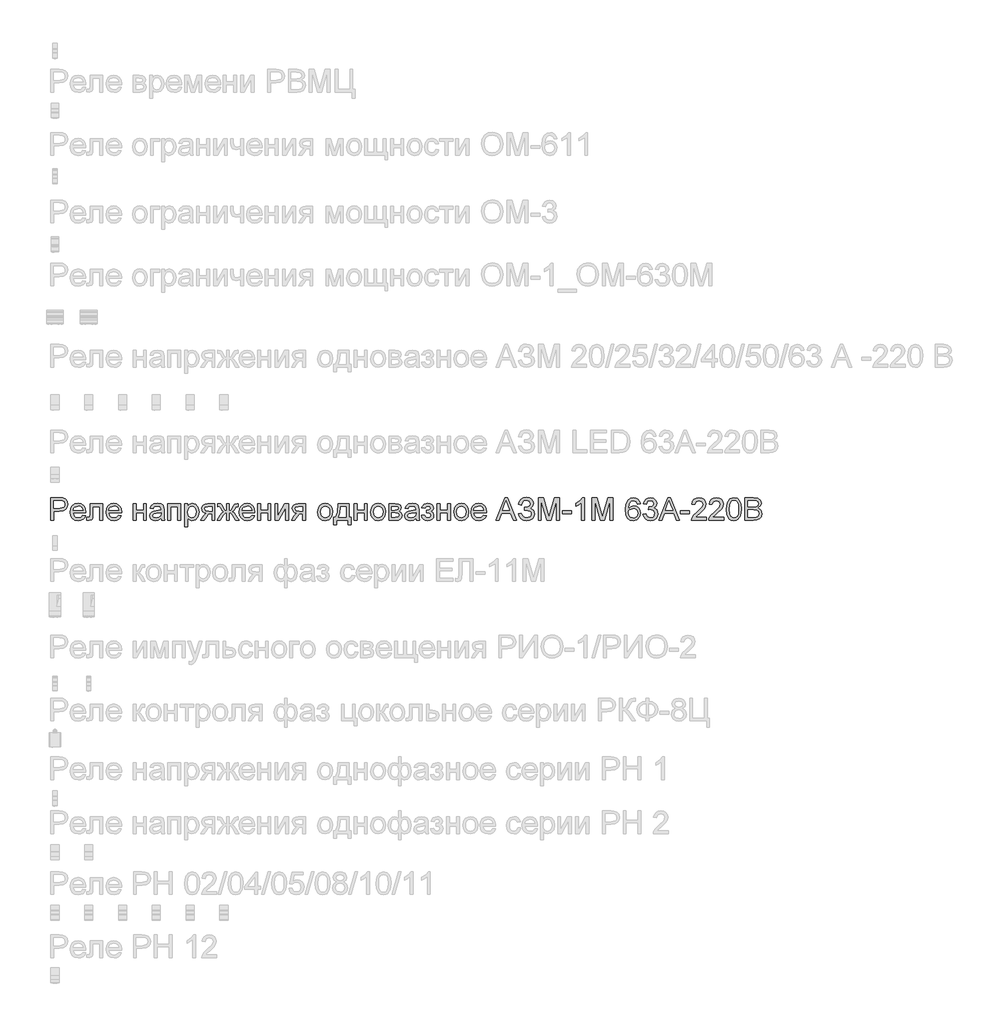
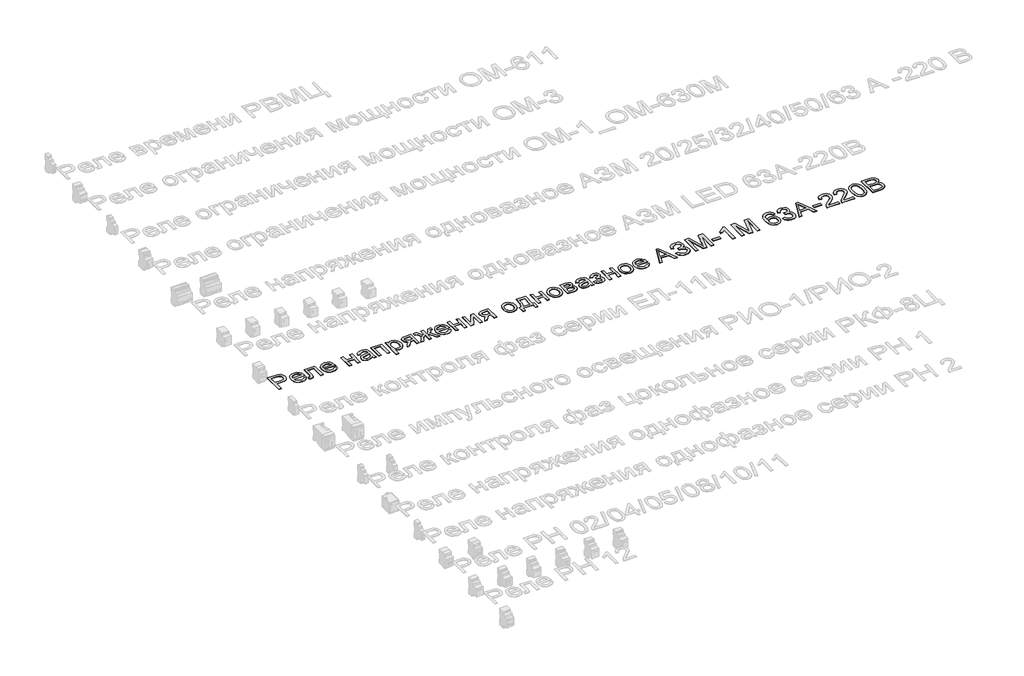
# One storey, part 13 of 34: 1 proxy.
"""IFC4 building model written with IfcOpenShell, lengths in millimetres."""

from ifc_helpers import new_model, si_unit, frame, origin, place, context, project, spatial, polyline, outline, extrude, element, save

model = new_model("IFC4")

# Units and contexts
model_context = context("Model", 3, world=origin())
ifc_project = project(units=[si_unit("LENGTHUNIT", "METRE", prefix="MILLI")], contexts=[model_context])

# Site, building, storey
site = spatial("IfcSite", under=ifc_project)
building = spatial("IfcBuilding", under=site)
storey = spatial("IfcBuildingStorey", under=building, Name="Этаж 01", Elevation=0.0)

# Proxy
placement = place(None, origin())
element("IfcBuildingElementProxy", 1, Name="Надпись на модели 1", ObjectType="Надпись на модели 1", at=placement, inside=storey, context=model_context, shape_type="SweptSolid", body=[
    extrude(outline(polyline([(-19039.0125911, 11596.235284), (-19039.0125911, 11696.6915941), (-19001.7829332, 11696.6915941), (-18986.7733478, 11695.735101), (-18974.5719283, 11691.0384742), (-18966.6624654, 11681.3263895), (-18963.6703585, 11667.6289165), (-18965.6906438, 11655.7892476), (-18971.7514996, 11645.9238788), (-18983.0853308, 11639.2652147), (-19000.9245418, 11637.04566), (-19026.4555523, 11637.04566), (-19026.4555523, 11596.235284), (-19039.0125911, 11596.235284)]), holes=[polyline([(-19026.4555523, 11649.6026988), (-19000.1887779, 11649.6026988), (-18981.6965762, 11654.2134864), (-18977.594692, 11659.7623732), (-18976.2273972, 11667.1874581), (-18979.4524961, 11677.5862559), (-18987.9260447, 11683.2761641), (-19000.4830834, 11684.1345554), (-19026.4555523, 11684.1345554), (-19026.4555523, 11649.6026988)])]), frame((0.0, 0.0, 40.0), z_axis=(0.0, 0.0, 1.0), x_axis=(1.0, 0.0, 0.0)), (0.0, 0.0, 1.0), 2.0),
    extrude(outline(polyline([(-18896.3234279, 11618.2101018), (-18884.0116438, 11616.640472), (-18888.4476875, 11607.3637143), (-18895.5263502, 11600.4291387), (-18905.0882164, 11596.1065253), (-18916.9738705, 11594.6656541), (-18931.7075445, 11597.1519233), (-18943.0444413, 11604.6107308), (-18950.2733225, 11616.5576985), (-18952.6829495, 11632.5084487), (-18950.248797, 11648.9956935), (-18942.9463394, 11661.3258717), (-18931.7627268, 11669.0146054), (-18917.6851091, 11671.5775166), (-18904.0458841, 11669.0207367), (-18893.14738, 11661.3503971), (-18886.0012722, 11649.0447444), (-18883.6192363, 11632.5820251), (-18883.6928127, 11629.1975108), (-18940.1259108, 11629.1975108), (-18937.9523413, 11619.7981258), (-18932.9031609, 11612.8880756), (-18925.6160317, 11608.6390386), (-18916.7286159, 11607.2226929), (-18904.4168318, 11609.8469178), (-18896.3234279, 11618.2101018)]), holes=[polyline([(-18940.1259108, 11641.7545495), (-18896.1762751, 11641.7545495), (-18901.2039957, 11653.1343659), (-18908.5248474, 11657.5489499), (-18917.73416, 11659.0204778), (-18933.1974665, 11654.323851), (-18938.0627059, 11648.8332123), (-18940.1259108, 11641.7545495)])]), frame((0.0, 0.0, 40.0), z_axis=(0.0, 0.0, 1.0), x_axis=(1.0, 0.0, 0.0)), (0.0, 0.0, 1.0), 2.0),
    extrude(outline(polyline([(-18864.7836782, 11670.0078868), (-18808.2770037, 11670.0078868), (-18808.2770037, 11596.3088604), (-18820.8340425, 11596.3088604), (-18820.8340425, 11657.450848), (-18852.2266394, 11657.450848), (-18852.2266394, 11622.2568038), (-18853.072768, 11606.0209451), (-18857.7203439, 11599.1660772), (-18868.7077528, 11596.235284), (-18878.9103468, 11596.8729461), (-18878.9103468, 11608.7923228), (-18873.294015, 11608.7923228), (-18867.6163695, 11609.564875), (-18865.3477639, 11612.0174216), (-18864.7836782, 11622.9680423), (-18864.7836782, 11670.0078868)])), frame((0.0, 0.0, 40.0), z_axis=(0.0, 0.0, 1.0), x_axis=(1.0, 0.0, 0.0)), (0.0, 0.0, 1.0), 2.0),
    extrude(outline(polyline([(-18737.7908134, 11618.2101018), (-18725.4790293, 11616.640472), (-18729.915073, 11607.3637143), (-18736.9937358, 11600.4291387), (-18746.555602, 11596.1065253), (-18758.4412561, 11594.6656541), (-18773.17493, 11597.1519233), (-18784.5118268, 11604.6107308), (-18791.740708, 11616.5576985), (-18794.1503351, 11632.5084487), (-18791.7161826, 11648.9956935), (-18784.4137249, 11661.3258717), (-18773.2301123, 11669.0146054), (-18759.1524946, 11671.5775166), (-18745.5132696, 11669.0207367), (-18734.6147655, 11661.3503971), (-18727.4686578, 11649.0447444), (-18725.0866219, 11632.5820251), (-18725.1601983, 11629.1975108), (-18781.5932963, 11629.1975108), (-18779.4197269, 11619.7981258), (-18774.3705465, 11612.8880756), (-18767.0834173, 11608.6390386), (-18758.1960014, 11607.2226929), (-18745.8842173, 11609.8469178), (-18737.7908134, 11618.2101018)]), holes=[polyline([(-18781.5932963, 11641.7545495), (-18737.6436606, 11641.7545495), (-18742.6713812, 11653.1343659), (-18749.9922329, 11657.5489499), (-18759.2015455, 11659.0204778), (-18774.6648521, 11654.323851), (-18779.5300915, 11648.8332123), (-18781.5932963, 11641.7545495)])]), frame((0.0, 0.0, 40.0), z_axis=(0.0, 0.0, 1.0), x_axis=(1.0, 0.0, 0.0)), (0.0, 0.0, 1.0), 2.0),
    extrude(outline(polyline([(-18673.2888369, 11670.0078868), (-18660.7317982, 11670.0078868), (-18660.7317982, 11641.7545495), (-18627.7695714, 11641.7545495), (-18627.7695714, 11670.0078868), (-18615.2125326, 11670.0078868), (-18615.2125326, 11596.235284), (-18627.7695714, 11596.235284), (-18627.7695714, 11629.1975108), (-18660.7317982, 11629.1975108), (-18660.7317982, 11596.235284), (-18673.2888369, 11596.235284), (-18673.2888369, 11670.0078868)])), frame((0.0, 0.0, 40.0), z_axis=(0.0, 0.0, 1.0), x_axis=(1.0, 0.0, 0.0)), (0.0, 0.0, 1.0), 2.0),
    extrude(outline(polyline([(-18549.2880791, 11605.6530631), (-18561.4649731, 11597.1427262), (-18574.9171914, 11594.6656541), (-18585.4110253, 11596.1555762), (-18593.1518757, 11600.6253425), (-18597.9251445, 11607.4127653), (-18599.5162342, 11615.8556571), (-18597.1127385, 11625.7884709), (-18590.7974309, 11632.998958), (-18582.0050512, 11637.1192364), (-18571.1402696, 11639.0076973), (-18549.3616555, 11643.3241794), (-18549.2880791, 11646.1200825), (-18552.7461699, 11655.3907088), (-18566.6275838, 11659.0204778), (-18579.3317754, 11656.6047194), (-18585.3895656, 11648.0330689), (-18597.9466043, 11649.6026988), (-18592.5142135, 11661.8654319), (-18581.5758555, 11669.0513936), (-18565.008903, 11671.5775166), (-18549.7908512, 11669.3456992), (-18541.1946752, 11663.7416301), (-18537.344177, 11655.2190306), (-18536.7310403, 11644.2316216), (-18536.7310403, 11628.6088996), (-18536.0933782, 11606.7934973), (-18533.5917806, 11596.235284), (-18546.1488194, 11596.235284), (-18549.2880791, 11605.6530631)]), holes=[polyline([(-18549.2880791, 11630.7671406), (-18569.5461143, 11626.9166424), (-18580.3495822, 11624.8810287), (-18585.2424128, 11621.5700907), (-18586.9591954, 11616.7385739), (-18583.2190618, 11609.9450197), (-18572.2439156, 11607.2226929), (-18559.539724, 11610.2270625), (-18551.3482183, 11617.4988633), (-18549.3616555, 11627.210948), (-18549.2880791, 11630.7671406)])]), frame((0.0, 0.0, 40.0), z_axis=(0.0, 0.0, 1.0), x_axis=(1.0, 0.0, 0.0)), (0.0, 0.0, 1.0), 2.0),
    extrude(outline(polyline([(-18519.465112, 11670.0078868), (-18462.9584376, 11670.0078868), (-18462.9584376, 11596.235284), (-18475.5154763, 11596.235284), (-18475.5154763, 11657.450848), (-18506.9080733, 11657.450848), (-18506.9080733, 11596.235284), (-18519.465112, 11596.235284), (-18519.465112, 11670.0078868)])), frame((0.0, 0.0, 40.0), z_axis=(0.0, 0.0, 1.0), x_axis=(1.0, 0.0, 0.0)), (0.0, 0.0, 1.0), 2.0),
    extrude(outline(polyline([(-18444.1228794, 11567.9819468), (-18444.1228794, 11670.0078868), (-18431.5658406, 11670.0078868), (-18431.5658406, 11657.6961027), (-18422.8838256, 11668.1071631), (-18411.1606526, 11671.5775166), (-18395.243625, 11666.7214743), (-18384.8448273, 11653.036264), (-18381.3376856, 11633.6856711), (-18385.2985484, 11613.3417968), (-18396.8009921, 11599.4849083), (-18412.6812316, 11594.6656541), (-18423.6073268, 11597.890753), (-18431.5658406, 11606.0454705), (-18431.5658406, 11567.9819468), (-18444.1228794, 11567.9819468)]), holes=[polyline([(-18431.5658406, 11632.5329742), (-18430.2077429, 11621.2757851), (-18426.1334498, 11613.4031104), (-18420.1216449, 11608.7677973), (-18412.9510117, 11607.2226929), (-18405.6638825, 11608.8229796), (-18399.4987934, 11613.6238396), (-18395.2957416, 11621.7846886), (-18393.8947243, 11633.4649419), (-18395.2620191, 11644.6608173), (-18399.3639033, 11652.6438566), (-18405.3665112, 11657.4263225), (-18412.4359769, 11659.0204778), (-18419.5330337, 11657.325155), (-18425.7655679, 11652.2391864), (-18430.1157724, 11643.9219876), (-18431.5658406, 11632.5329742)])]), frame((0.0, 0.0, 40.0), z_axis=(0.0, 0.0, 1.0), x_axis=(1.0, 0.0, 0.0)), (0.0, 0.0, 1.0), 2.0),
    extrude(outline(polyline([(-18310.7043425, 11670.0078868), (-18310.7043425, 11596.235284), (-18323.2613813, 11596.235284), (-18323.2613813, 11624.4886212), (-18330.1039864, 11624.4886212), (-18339.4236636, 11622.8944659), (-18348.1792551, 11612.1768371), (-18358.1856453, 11596.235284), (-18372.7047214, 11596.235284), (-18360.0986317, 11616.3952173), (-18349.4055284, 11626.843066), (-18357.9894416, 11629.4734223), (-18364.0227063, 11634.470486), (-18368.7806468, 11648.6952565), (-18367.1558347, 11657.2914325), (-18362.2813982, 11664.0972494), (-18354.3290158, 11668.5302274), (-18343.4703655, 11670.0078868), (-18310.7043425, 11670.0078868)]), holes=[polyline([(-18323.2613813, 11657.450848), (-18339.816071, 11657.450848), (-18353.2192384, 11654.5445802), (-18356.223608, 11647.7387633), (-18351.7967614, 11639.6330967), (-18336.1127256, 11637.04566), (-18323.2613813, 11637.04566), (-18323.2613813, 11657.450848)])]), frame((0.0, 0.0, 40.0), z_axis=(0.0, 0.0, 1.0), x_axis=(1.0, 0.0, 0.0)), (0.0, 0.0, 1.0), 2.0),
    extrude(outline(polyline([(-18246.3495188, 11670.0078868), (-18246.3495188, 11638.6152898), (-18239.0286671, 11641.2027265), (-18232.1002229, 11654.6304194), (-18223.8351407, 11667.5062892), (-18212.0874423, 11670.0078868), (-18207.1087727, 11670.0078868), (-18207.1087727, 11657.3772716), (-18210.5668634, 11657.450848), (-18217.0415865, 11656.1509983), (-18221.5297469, 11648.0085434), (-18226.7414085, 11639.0812737), (-18234.1848875, 11634.5440624), (-18225.9749876, 11629.6573633), (-18217.9735542, 11619.3627988), (-18203.969513, 11596.235284), (-18218.3659617, 11596.235284), (-18232.1492738, 11619.0439677), (-18239.1758199, 11628.5230604), (-18246.3495188, 11630.7671406), (-18246.3495188, 11596.235284), (-18258.9065576, 11596.235284), (-18258.9065576, 11630.7671406), (-18266.055731, 11628.5721114), (-18273.1313281, 11619.0930186), (-18286.9146401, 11596.235284), (-18301.2865634, 11596.235284), (-18287.3315731, 11619.3627988), (-18279.268826, 11629.6573633), (-18271.0221379, 11634.5440624), (-18278.9193381, 11639.5472576), (-18285.6883668, 11652.4231274), (-18288.9993048, 11656.6660331), (-18294.4194328, 11657.5244244), (-18298.1473037, 11657.450848), (-18298.1473037, 11670.0078868), (-18296.2588428, 11670.0078868), (-18285.2469084, 11669.2230718), (-18279.5324748, 11665.8876084), (-18273.1313281, 11654.6304194), (-18266.2764602, 11641.2885657), (-18258.9065576, 11638.6152898), (-18258.9065576, 11670.0078868), (-18246.3495188, 11670.0078868)])), frame((0.0, 0.0, 40.0), z_axis=(0.0, 0.0, 1.0), x_axis=(1.0, 0.0, 0.0)), (0.0, 0.0, 1.0), 2.0),
    extrude(outline(polyline([(-18146.0403615, 11618.2101018), (-18133.7285773, 11616.640472), (-18138.1646211, 11607.3637143), (-18145.2432838, 11600.4291387), (-18154.80515, 11596.1065253), (-18166.6908041, 11594.6656541), (-18181.424478, 11597.1519233), (-18192.7613748, 11604.6107308), (-18199.990256, 11616.5576985), (-18202.3998831, 11632.5084487), (-18199.9657306, 11648.9956935), (-18192.663273, 11661.3258717), (-18181.4796603, 11669.0146054), (-18167.4020426, 11671.5775166), (-18153.7628177, 11669.0207367), (-18142.8643136, 11661.3503971), (-18135.7182058, 11649.0447444), (-18133.3361699, 11632.5820251), (-18133.4097463, 11629.1975108), (-18189.8428443, 11629.1975108), (-18187.6692749, 11619.7981258), (-18182.6200945, 11612.8880756), (-18175.3329653, 11608.6390386), (-18166.4455495, 11607.2226929), (-18154.1337653, 11609.8469178), (-18146.0403615, 11618.2101018)]), holes=[polyline([(-18189.8428443, 11641.7545495), (-18145.8932087, 11641.7545495), (-18150.9209293, 11653.1343659), (-18158.241781, 11657.5489499), (-18167.4510936, 11659.0204778), (-18182.9144001, 11654.323851), (-18187.7796395, 11648.8332123), (-18189.8428443, 11641.7545495)])]), frame((0.0, 0.0, 40.0), z_axis=(0.0, 0.0, 1.0), x_axis=(1.0, 0.0, 0.0)), (0.0, 0.0, 1.0), 2.0),
    extrude(outline(polyline([(-18120.7791311, 11670.0078868), (-18108.2220923, 11670.0078868), (-18108.2220923, 11641.7545495), (-18075.2598656, 11641.7545495), (-18075.2598656, 11670.0078868), (-18062.7028268, 11670.0078868), (-18062.7028268, 11596.235284), (-18075.2598656, 11596.235284), (-18075.2598656, 11629.1975108), (-18108.2220923, 11629.1975108), (-18108.2220923, 11596.235284), (-18120.7791311, 11596.235284), (-18120.7791311, 11670.0078868)])), frame((0.0, 0.0, 40.0), z_axis=(0.0, 0.0, 1.0), x_axis=(1.0, 0.0, 0.0)), (0.0, 0.0, 1.0), 2.0),
    extrude(outline(polyline([(-18043.8672687, 11670.0078868), (-18031.3102299, 11670.0078868), (-18031.3102299, 11613.746467), (-18000.4571932, 11670.0078868), (-17984.2213345, 11670.0078868), (-17984.2213345, 11596.235284), (-17996.7783733, 11596.235284), (-17996.7783733, 11652.1533473), (-18027.4352062, 11596.235284), (-18043.8672687, 11596.235284), (-18043.8672687, 11670.0078868)])), frame((0.0, 0.0, 40.0), z_axis=(0.0, 0.0, 1.0), x_axis=(1.0, 0.0, 0.0)), (0.0, 0.0, 1.0), 2.0),
    extrude(outline(polyline([(-17908.8791019, 11670.0078868), (-17908.8791019, 11596.235284), (-17921.4361407, 11596.235284), (-17921.4361407, 11624.4886212), (-17928.2787458, 11624.4886212), (-17937.598423, 11622.8944659), (-17946.3540145, 11612.1768371), (-17956.3604047, 11596.235284), (-17970.8794808, 11596.235284), (-17958.2733911, 11616.3952173), (-17947.5802878, 11626.843066), (-17956.164201, 11629.4734223), (-17962.1974657, 11634.470486), (-17966.9554062, 11648.6952565), (-17965.3305941, 11657.2914325), (-17960.4561576, 11664.0972494), (-17952.5037752, 11668.5302274), (-17941.6451249, 11670.0078868), (-17908.8791019, 11670.0078868)]), holes=[polyline([(-17921.4361407, 11657.450848), (-17937.9908304, 11657.450848), (-17951.3939978, 11654.5445802), (-17954.3983674, 11647.7387633), (-17949.9715208, 11639.6330967), (-17934.287485, 11637.04566), (-17921.4361407, 11637.04566), (-17921.4361407, 11657.450848)])]), frame((0.0, 0.0, 40.0), z_axis=(0.0, 0.0, 1.0), x_axis=(1.0, 0.0, 0.0)), (0.0, 0.0, 1.0), 2.0),
    extrude(outline(polyline([(-17853.9420573, 11633.1215854), (-17851.2258619, 11650.9086798), (-17843.0772757, 11663.4105363), (-17833.0095718, 11669.5357715), (-17820.955305, 11671.5775166), (-17807.7636698, 11669.0912475), (-17797.2269164, 11661.63244), (-17790.3199319, 11649.7897054), (-17788.0176037, 11634.151655), (-17792.0888312, 11611.8089551), (-17803.9468941, 11599.1660772), (-17820.955305, 11594.6656541), (-17834.3063558, 11597.1427262), (-17844.8308465, 11604.5739426), (-17851.6642546, 11616.6649975), (-17853.9420573, 11633.1215854)]), holes=[polyline([(-17841.3850185, 11633.1461108), (-17839.9318846, 11621.7816229), (-17835.572483, 11613.6851533), (-17829.0119207, 11608.838308), (-17820.955305, 11607.2226929), (-17812.9354776, 11608.8475051), (-17806.387178, 11613.7219415), (-17802.0277764, 11621.92571), (-17800.5746425, 11633.5385183), (-17802.0369734, 11644.5719125), (-17806.4239662, 11652.5580175), (-17812.9814628, 11657.4048627), (-17820.955305, 11659.0204778), (-17829.0119207, 11657.4109941), (-17835.572483, 11652.5825429), (-17839.9318846, 11644.5044674), (-17841.3850185, 11633.1461108)])]), frame((0.0, 0.0, 40.0), z_axis=(0.0, 0.0, 1.0), x_axis=(1.0, 0.0, 0.0)), (0.0, 0.0, 1.0), 2.0),
    extrude(outline(polyline([(-17762.9035262, 11670.0078868), (-17715.8146308, 11670.0078868), (-17715.8146308, 11608.7923228), (-17706.3968517, 11608.7923228), (-17706.3968517, 11575.830096), (-17718.9538905, 11575.830096), (-17718.9538905, 11596.235284), (-17770.7516754, 11596.235284), (-17770.7516754, 11575.830096), (-17783.3087142, 11575.830096), (-17783.3087142, 11608.7923228), (-17775.460565, 11608.7923228), (-17765.760743, 11632.7414406), (-17762.9035262, 11670.0078868)]), holes=[polyline([(-17751.9161173, 11657.450848), (-17754.8591732, 11628.8418915), (-17761.3338964, 11608.7923228), (-17728.3716696, 11608.7923228), (-17728.3716696, 11657.450848), (-17751.9161173, 11657.450848)])]), frame((0.0, 0.0, 40.0), z_axis=(0.0, 0.0, 1.0), x_axis=(1.0, 0.0, 0.0)), (0.0, 0.0, 1.0), 2.0),
    extrude(outline(polyline([(-17692.2701831, 11670.0078868), (-17679.7131444, 11670.0078868), (-17679.7131444, 11641.7545495), (-17646.7509176, 11641.7545495), (-17646.7509176, 11670.0078868), (-17634.1938788, 11670.0078868), (-17634.1938788, 11596.235284), (-17646.7509176, 11596.235284), (-17646.7509176, 11629.1975108), (-17679.7131444, 11629.1975108), (-17679.7131444, 11596.235284), (-17692.2701831, 11596.235284), (-17692.2701831, 11670.0078868)])), frame((0.0, 0.0, 40.0), z_axis=(0.0, 0.0, 1.0), x_axis=(1.0, 0.0, 0.0)), (0.0, 0.0, 1.0), 2.0),
    extrude(outline(polyline([(-17618.4975804, 11633.1215854), (-17615.781385, 11650.9086798), (-17607.6327988, 11663.4105363), (-17597.5650948, 11669.5357715), (-17585.5108281, 11671.5775166), (-17572.3191929, 11669.0912475), (-17561.7824394, 11661.63244), (-17554.875455, 11649.7897054), (-17552.5731268, 11634.151655), (-17556.6443542, 11611.8089551), (-17568.5024172, 11599.1660772), (-17585.5108281, 11594.6656541), (-17598.8618789, 11597.1427262), (-17609.3863696, 11604.5739426), (-17616.2197777, 11616.6649975), (-17618.4975804, 11633.1215854)]), holes=[polyline([(-17605.9405416, 11633.1461108), (-17604.4874077, 11621.7816229), (-17600.1280061, 11613.6851533), (-17593.5674438, 11608.838308), (-17585.5108281, 11607.2226929), (-17577.4910006, 11608.8475051), (-17570.9427011, 11613.7219415), (-17566.5832995, 11621.92571), (-17565.1301656, 11633.5385183), (-17566.5924965, 11644.5719125), (-17570.9794893, 11652.5580175), (-17577.5369859, 11657.4048627), (-17585.5108281, 11659.0204778), (-17593.5674438, 11657.4109941), (-17600.1280061, 11652.5825429), (-17604.4874077, 11644.5044674), (-17605.9405416, 11633.1461108)])]), frame((0.0, 0.0, 40.0), z_axis=(0.0, 0.0, 1.0), x_axis=(1.0, 0.0, 0.0)), (0.0, 0.0, 1.0), 2.0),
    extrude(outline(polyline([(-17538.4464582, 11670.0078868), (-17510.7817322, 11670.0078868), (-17495.6127312, 11668.3278923), (-17487.077869, 11662.1720003), (-17483.5094136, 11651.4421087), (-17485.6676546, 11642.7233055), (-17492.1669032, 11636.5060997), (-17483.7301428, 11629.7002828), (-17480.3701539, 11617.8667453), (-17482.4977381, 11608.2956821), (-17487.5561156, 11601.5573102), (-17495.5636803, 11597.5657905), (-17506.5388265, 11596.235284), (-17538.4464582, 11596.235284), (-17538.4464582, 11670.0078868)]), holes=[polyline([(-17525.8894194, 11641.7545495), (-17513.4795335, 11641.7545495), (-17503.2401513, 11642.3922117), (-17498.2614816, 11644.9428602), (-17496.0664524, 11649.5536478), (-17499.9169506, 11655.7095399), (-17513.087126, 11657.450848), (-17525.8894194, 11657.450848), (-17525.8894194, 11641.7545495)]), polyline([(-17525.8894194, 11608.7923228), (-17510.4874266, 11608.7923228), (-17496.8267418, 11611.0609284), (-17492.9271927, 11618.8968149), (-17495.073171, 11624.9423424), (-17500.6649773, 11628.4617468), (-17511.7136999, 11629.1975108), (-17525.8894194, 11629.1975108), (-17525.8894194, 11608.7923228)])]), frame((0.0, 0.0, 40.0), z_axis=(0.0, 0.0, 1.0), x_axis=(1.0, 0.0, 0.0)), (0.0, 0.0, 1.0), 2.0),
    extrude(outline(polyline([(-17417.5849601, 11605.6530631), (-17429.7618541, 11597.1427262), (-17443.2140724, 11594.6656541), (-17453.7079063, 11596.1555762), (-17461.4487566, 11600.6253425), (-17466.2220255, 11607.4127653), (-17467.8131151, 11615.8556571), (-17465.4096194, 11625.7884709), (-17459.0943119, 11632.998958), (-17450.3019322, 11637.1192364), (-17439.4371506, 11639.0076973), (-17417.6585365, 11643.3241794), (-17417.5849601, 11646.1200825), (-17421.0430508, 11655.3907088), (-17434.9244648, 11659.0204778), (-17447.6286563, 11656.6047194), (-17453.6864465, 11648.0330689), (-17466.2434853, 11649.6026988), (-17460.8110945, 11661.8654319), (-17449.8727365, 11669.0513936), (-17433.305784, 11671.5775166), (-17418.0877321, 11669.3456992), (-17409.4915562, 11663.7416301), (-17405.641058, 11655.2190306), (-17405.0279213, 11644.2316216), (-17405.0279213, 11628.6088996), (-17404.3902592, 11606.7934973), (-17401.8886616, 11596.235284), (-17414.4457004, 11596.235284), (-17417.5849601, 11605.6530631)]), holes=[polyline([(-17417.5849601, 11630.7671406), (-17437.8429953, 11626.9166424), (-17448.6464632, 11624.8810287), (-17453.5392937, 11621.5700907), (-17455.2560764, 11616.7385739), (-17451.5159428, 11609.9450197), (-17440.5407966, 11607.2226929), (-17427.836605, 11610.2270625), (-17419.6450992, 11617.4988633), (-17417.6585365, 11627.210948), (-17417.5849601, 11630.7671406)])]), frame((0.0, 0.0, 40.0), z_axis=(0.0, 0.0, 1.0), x_axis=(1.0, 0.0, 0.0)), (0.0, 0.0, 1.0), 2.0),
    extrude(outline(polyline([(-17370.4960647, 11629.1975108), (-17370.4960647, 11641.7545495), (-17360.5877763, 11642.2450589), (-17355.5845811, 11644.857021), (-17353.2301364, 11650.3139373), (-17356.3816588, 11656.6537703), (-17364.5118509, 11659.0204778), (-17372.9118231, 11656.6660331), (-17378.3442139, 11649.6026988), (-17392.4708825, 11651.1723286), (-17383.028578, 11666.4762196), (-17365.7871751, 11671.5775166), (-17355.2902756, 11670.0232152), (-17347.3440245, 11665.3603109), (-17342.3408293, 11658.5391656), (-17340.6730976, 11650.510141), (-17343.0459365, 11642.7110427), (-17350.1644531, 11636.677778), (-17341.8625827, 11628.8541542), (-17339.1034678, 11617.5969652), (-17340.8539729, 11608.3539301), (-17346.1054884, 11601.0300127), (-17354.5023949, 11596.2567438), (-17365.6890733, 11594.6656541), (-17376.630497, 11596.1371821), (-17385.002878, 11600.5517661), (-17390.8062165, 11607.909406), (-17394.0405124, 11618.2101018), (-17379.9138438, 11619.7797317), (-17374.248461, 11610.5091054), (-17364.4873254, 11607.2226929), (-17355.314801, 11610.3742153), (-17351.6605065, 11618.430831), (-17353.9291122, 11625.0281815), (-17358.760629, 11628.5598486), (-17368.0435181, 11629.2710872), (-17370.4960647, 11629.1975108)])), frame((0.0, 0.0, 40.0), z_axis=(0.0, 0.0, 1.0), x_axis=(1.0, 0.0, 0.0)), (0.0, 0.0, 1.0), 2.0),
    extrude(outline(polyline([(-17323.4071693, 11670.0078868), (-17310.8501305, 11670.0078868), (-17310.8501305, 11641.7545495), (-17277.8879038, 11641.7545495), (-17277.8879038, 11670.0078868), (-17265.330865, 11670.0078868), (-17265.330865, 11596.235284), (-17277.8879038, 11596.235284), (-17277.8879038, 11629.1975108), (-17310.8501305, 11629.1975108), (-17310.8501305, 11596.235284), (-17323.4071693, 11596.235284), (-17323.4071693, 11670.0078868)])), frame((0.0, 0.0, 40.0), z_axis=(0.0, 0.0, 1.0), x_axis=(1.0, 0.0, 0.0)), (0.0, 0.0, 1.0), 2.0),
    extrude(outline(polyline([(-17249.6345665, 11633.1215854), (-17246.9183711, 11650.9086798), (-17238.7697849, 11663.4105363), (-17228.702081, 11669.5357715), (-17216.6478143, 11671.5775166), (-17203.4561791, 11669.0912475), (-17192.9194256, 11661.63244), (-17186.0124412, 11649.7897054), (-17183.710113, 11634.151655), (-17187.7813404, 11611.8089551), (-17199.6394034, 11599.1660772), (-17216.6478143, 11594.6656541), (-17229.998865, 11597.1427262), (-17240.5233558, 11604.5739426), (-17247.3567639, 11616.6649975), (-17249.6345665, 11633.1215854)]), holes=[polyline([(-17237.0775278, 11633.1461108), (-17235.6243939, 11621.7816229), (-17231.2649922, 11613.6851533), (-17224.70443, 11608.838308), (-17216.6478143, 11607.2226929), (-17208.6279868, 11608.8475051), (-17202.0796873, 11613.7219415), (-17197.7202857, 11621.92571), (-17196.2671518, 11633.5385183), (-17197.7294827, 11644.5719125), (-17202.1164755, 11652.5580175), (-17208.6739721, 11657.4048627), (-17216.6478143, 11659.0204778), (-17224.70443, 11657.4109941), (-17231.2649922, 11652.5825429), (-17235.6243939, 11644.5044674), (-17237.0775278, 11633.1461108)])]), frame((0.0, 0.0, 40.0), z_axis=(0.0, 0.0, 1.0), x_axis=(1.0, 0.0, 0.0)), (0.0, 0.0, 1.0), 2.0),
    extrude(outline(polyline([(-17117.9328123, 11618.2101018), (-17105.6210282, 11616.640472), (-17110.0570719, 11607.3637143), (-17117.1357346, 11600.4291387), (-17126.6976008, 11596.1065253), (-17138.5832549, 11594.6656541), (-17153.3169288, 11597.1519233), (-17164.6538257, 11604.6107308), (-17171.8827069, 11616.5576985), (-17174.2923339, 11632.5084487), (-17171.8581814, 11648.9956935), (-17164.5557238, 11661.3258717), (-17153.3721111, 11669.0146054), (-17139.2944935, 11671.5775166), (-17125.6552685, 11669.0207367), (-17114.7567644, 11661.3503971), (-17107.6106566, 11649.0447444), (-17105.2286207, 11632.5820251), (-17105.3021971, 11629.1975108), (-17161.7352952, 11629.1975108), (-17159.5617257, 11619.7981258), (-17154.5125453, 11612.8880756), (-17147.2254161, 11608.6390386), (-17138.3380003, 11607.2226929), (-17126.0262162, 11609.8469178), (-17117.9328123, 11618.2101018)]), holes=[polyline([(-17161.7352952, 11641.7545495), (-17117.7856595, 11641.7545495), (-17122.8133801, 11653.1343659), (-17130.1342318, 11657.5489499), (-17139.3435444, 11659.0204778), (-17154.8068509, 11654.323851), (-17159.6720903, 11648.8332123), (-17161.7352952, 11641.7545495)])]), frame((0.0, 0.0, 40.0), z_axis=(0.0, 0.0, 1.0), x_axis=(1.0, 0.0, 0.0)), (0.0, 0.0, 1.0), 2.0),
    extrude(outline(polyline([(-17063.5598534, 11596.235284), (-17023.4607159, 11696.6915941), (-17012.7676126, 11696.6915941), (-16972.6684751, 11596.235284), (-16985.9367524, 11596.235284), (-16997.4391961, 11627.6278809), (-17038.8136578, 11627.6278809), (-17050.2915761, 11596.235284), (-17063.5598534, 11596.235284)]), holes=[polyline([(-17034.2028702, 11640.1849197), (-17002.0254583, 11640.1849197), (-17011.0753554, 11664.8820643), (-17018.1141642, 11684.1345554), (-17024.3681582, 11667.0403053), (-17034.2028702, 11640.1849197)])]), frame((0.0, 0.0, 40.0), z_axis=(0.0, 0.0, 1.0), x_axis=(1.0, 0.0, 0.0)), (0.0, 0.0, 1.0), 2.0),
    extrude(outline(polyline([(-16963.9619345, 11624.4886212), (-16951.4048958, 11627.6278809), (-16943.6916366, 11614.0285098), (-16936.4045074, 11608.9241471), (-16927.0756332, 11607.2226929), (-16910.4105788, 11612.3362526), (-16905.839645, 11617.9801756), (-16904.3160004, 11624.684825), (-16905.9806664, 11631.7083054), (-16910.9746645, 11637.1314991), (-16929.1112469, 11641.7545495), (-16935.7085973, 11641.7545495), (-16935.7085973, 11654.3115883), (-16921.4960896, 11655.3293952), (-16912.8018118, 11660.528794), (-16909.0248899, 11670.0324122), (-16914.0526105, 11681.0320839), (-16927.6642444, 11685.7041852), (-16940.4788005, 11682.1112044), (-16947.811915, 11672.5830607), (-16949.8352659, 11663.7293674), (-16962.3923047, 11666.8686271), (-16958.4912227, 11680.6028882), (-16951.4232899, 11690.4130748), (-16941.1885062, 11696.2991867), (-16927.7868717, 11698.261224), (-16914.8588852, 11696.2225446), (-16904.9168743, 11690.1065064), (-16898.580107, 11681.2620101), (-16896.4678512, 11671.0379563), (-16899.7542637, 11658.6096763), (-16909.6135011, 11649.3329186), (-16896.8847841, 11640.6876917), (-16891.7589616, 11625.0527069), (-16894.2176396, 11613.1609215), (-16901.5936736, 11603.3844574), (-16913.0286723, 11596.845355), (-16927.6642444, 11594.6656541), (-16940.3990928, 11596.5295896), (-16950.6936573, 11602.1213959), (-16958.5479379, 11611.4410731), (-16963.9619345, 11624.4886212)])), frame((0.0, 0.0, 40.0), z_axis=(0.0, 0.0, 1.0), x_axis=(1.0, 0.0, 0.0)), (0.0, 0.0, 1.0), 2.0),
    extrude(outline(polyline([(-16874.4930333, 11596.235284), (-16874.4930333, 11696.6915941), (-16852.8860975, 11696.6915941), (-16832.3337567, 11625.8865728), (-16828.1889529, 11611.0977166), (-16823.7007925, 11627.1128461), (-16803.4918083, 11696.6915941), (-16781.8848724, 11696.6915941), (-16781.8848724, 11596.235284), (-16794.4419112, 11596.235284), (-16794.4419112, 11684.1345554), (-16819.678616, 11596.235284), (-16836.6992897, 11596.235284), (-16861.9359946, 11684.1345554), (-16861.9359946, 11596.235284), (-16874.4930333, 11596.235284)])), frame((0.0, 0.0, 40.0), z_axis=(0.0, 0.0, 1.0), x_axis=(1.0, 0.0, 0.0)), (0.0, 0.0, 1.0), 2.0),
    extrude(outline(polyline([(-16767.7582038, 11626.0582511), (-16767.7582038, 11638.6152898), (-16728.5174576, 11638.6152898), (-16728.5174576, 11626.0582511), (-16767.7582038, 11626.0582511)])), frame((0.0, 0.0, 40.0), z_axis=(0.0, 0.0, 1.0), x_axis=(1.0, 0.0, 0.0)), (0.0, 0.0, 1.0), 2.0),
    extrude(outline(polyline([(-16670.4411533, 11596.235284), (-16682.9981921, 11596.235284), (-16682.9981921, 11674.5205726), (-16694.8930433, 11666.0470239), (-16708.1122696, 11659.7071909), (-16708.1122696, 11671.5775166), (-16689.7059071, 11683.325215), (-16678.5345572, 11696.6915941), (-16670.4411533, 11696.6915941), (-16670.4411533, 11596.235284)])), frame((0.0, 0.0, 40.0), z_axis=(0.0, 0.0, 1.0), x_axis=(1.0, 0.0, 0.0)), (0.0, 0.0, 1.0), 2.0),
    extrude(outline(polyline([(-16635.9092967, 11596.235284), (-16635.9092967, 11696.6915941), (-16614.3023609, 11696.6915941), (-16593.7500201, 11625.8865728), (-16589.6052163, 11611.0977166), (-16585.1170559, 11627.1128461), (-16564.9080716, 11696.6915941), (-16543.3011358, 11696.6915941), (-16543.3011358, 11596.235284), (-16555.8581746, 11596.235284), (-16555.8581746, 11684.1345554), (-16581.0948794, 11596.235284), (-16598.1155531, 11596.235284), (-16623.3522579, 11684.1345554), (-16623.3522579, 11596.235284), (-16635.9092967, 11596.235284)])), frame((0.0, 0.0, 40.0), z_axis=(0.0, 0.0, 1.0), x_axis=(1.0, 0.0, 0.0)), (0.0, 0.0, 1.0), 2.0),
    extrude(outline(polyline([(-16422.4396376, 11670.0078868), (-16434.9966764, 11668.4382569), (-16439.7546169, 11678.910631), (-16452.3361811, 11684.1345554), (-16463.6669466, 11681.0933975), (-16472.2385971, 11669.676793), (-16475.8070524, 11647.2973049), (-16464.7338044, 11657.3159579), (-16451.0118059, 11660.5901077), (-16439.4112604, 11658.3521589), (-16429.6746502, 11651.6383125), (-16423.0711684, 11641.3805362), (-16420.8700078, 11628.5107977), (-16425.0148116, 11611.1835557), (-16436.4191535, 11598.9208226), (-16452.8757414, 11594.6656541), (-16467.1219716, 11597.4860828), (-16478.4680655, 11605.9473687), (-16485.8900848, 11620.8833777), (-16488.3640912, 11643.1279756), (-16485.617239, 11668.13782), (-16477.3766823, 11685.2382014), (-16466.1256246, 11693.8282459), (-16451.5513662, 11696.6915941), (-16440.5333004, 11694.9196292), (-16431.7102639, 11689.6037344), (-16425.5298464, 11681.1608426), (-16422.4396376, 11670.0078868)]), holes=[polyline([(-16475.8070524, 11628.7070014), (-16472.9007847, 11617.8299571), (-16465.1752628, 11609.9327569), (-16453.85676, 11607.2226929), (-16445.5702181, 11608.6267759), (-16439.0556411, 11612.8390247), (-16434.8341952, 11619.4609006), (-16433.4270466, 11628.0938648), (-16434.8158011, 11636.3804067), (-16438.9820647, 11642.69878), (-16445.6070063, 11646.6994967), (-16454.3717948, 11648.0330689), (-16469.5653212, 11642.69878), (-16474.2466196, 11636.5336909), (-16475.8070524, 11628.7070014)])]), frame((0.0, 0.0, 40.0), z_axis=(0.0, 0.0, 1.0), x_axis=(1.0, 0.0, 0.0)), (0.0, 0.0, 1.0), 2.0),
    extrude(outline(polyline([(-16409.8825989, 11622.9189914), (-16397.3255601, 11624.4886212), (-16390.3971159, 11611.2693949), (-16377.4354069, 11607.2226929), (-16368.8269682, 11608.6145131), (-16362.1805668, 11612.7899738), (-16356.5151841, 11626.5732859), (-16362.1315159, 11639.5595203), (-16376.4053373, 11644.6976055), (-16385.2099797, 11643.3241794), (-16383.8120282, 11655.8812181), (-16381.8009399, 11655.7340653), (-16367.551644, 11659.3393089), (-16362.8059662, 11663.9133084), (-16361.2240737, 11670.4248197), (-16365.8103359, 11680.247269), (-16377.6316106, 11684.1345554), (-16389.6000382, 11680.2104808), (-16395.7559303, 11668.4382569), (-16408.312969, 11670.0078868), (-16404.615755, 11681.2834699), (-16398.0367986, 11689.7018362), (-16389.0359525, 11694.9441547), (-16378.073069, 11696.6915941), (-16362.9285936, 11693.2457661), (-16352.3335921, 11683.827987), (-16348.6670349, 11671.1605837), (-16352.1496511, 11659.5845636), (-16362.450347, 11651.2704305), (-16348.7651367, 11642.6865173), (-16343.9581453, 11626.3525567), (-16346.361641, 11614.114349), (-16353.5721282, 11603.8872295), (-16364.4553038, 11596.971048), (-16377.8768653, 11594.6656541), (-16390.0169711, 11596.6338228), (-16399.9007341, 11602.5383288), (-16406.773996, 11611.5698318), (-16409.8825989, 11622.9189914)])), frame((0.0, 0.0, 40.0), z_axis=(0.0, 0.0, 1.0), x_axis=(1.0, 0.0, 0.0)), (0.0, 0.0, 1.0), 2.0),
    extrude(outline(polyline([(-16339.9604943, 11596.235284), (-16299.8613569, 11696.6915941), (-16289.1682535, 11696.6915941), (-16249.0691161, 11596.235284), (-16262.3373933, 11596.235284), (-16273.8398371, 11627.6278809), (-16315.2142988, 11627.6278809), (-16326.692217, 11596.235284), (-16339.9604943, 11596.235284)]), holes=[polyline([(-16310.6035111, 11640.1849197), (-16278.4260993, 11640.1849197), (-16287.4759964, 11664.8820643), (-16294.5148052, 11684.1345554), (-16300.7687991, 11667.0403053), (-16310.6035111, 11640.1849197)])]), frame((0.0, 0.0, 40.0), z_axis=(0.0, 0.0, 1.0), x_axis=(1.0, 0.0, 0.0)), (0.0, 0.0, 1.0), 2.0),
    extrude(outline(polyline([(-16243.5018352, 11626.0582511), (-16243.5018352, 11638.6152898), (-16204.261089, 11638.6152898), (-16204.261089, 11626.0582511), (-16243.5018352, 11626.0582511)])), frame((0.0, 0.0, 40.0), z_axis=(0.0, 0.0, 1.0), x_axis=(1.0, 0.0, 0.0)), (0.0, 0.0, 1.0), 2.0),
    extrude(outline(polyline([(-16128.9188564, 11608.7923228), (-16128.9188564, 11596.235284), (-16194.84331, 11596.235284), (-16193.4944093, 11604.8927736), (-16185.8669893, 11618.2223646), (-16170.1461654, 11632.7782288), (-16148.4656531, 11653.6984516), (-16143.045525, 11667.9232221), (-16148.1590848, 11679.4379286), (-16161.5132012, 11684.1345554), (-16175.4314034, 11679.5482932), (-16180.7166414, 11666.8686271), (-16193.2736801, 11668.4382569), (-16190.2294566, 11680.5844941), (-16183.6474346, 11689.4565816), (-16173.8709706, 11694.882841), (-16161.2434211, 11696.6915941), (-16148.5239011, 11694.6805059), (-16138.7658312, 11688.6472412), (-16132.5578225, 11679.6341323), (-16130.4884863, 11668.6835116), (-16132.7203037, 11656.7763977), (-16140.1392573, 11644.4646136), (-16158.1286868, 11627.2599989), (-16172.5741865, 11615.1812067), (-16178.2395693, 11608.7923228), (-16128.9188564, 11608.7923228)])), frame((0.0, 0.0, 40.0), z_axis=(0.0, 0.0, 1.0), x_axis=(1.0, 0.0, 0.0)), (0.0, 0.0, 1.0), 2.0),
    extrude(outline(polyline([(-16052.006994, 11608.7923228), (-16052.006994, 11596.235284), (-16117.9314475, 11596.235284), (-16116.5825469, 11604.8927736), (-16108.9551268, 11618.2223646), (-16093.2343029, 11632.7782288), (-16071.5537906, 11653.6984516), (-16066.1336626, 11667.9232221), (-16071.2472223, 11679.4379286), (-16084.6013387, 11684.1345554), (-16098.5195409, 11679.5482932), (-16103.8047789, 11666.8686271), (-16116.3618177, 11668.4382569), (-16113.3175942, 11680.5844941), (-16106.7355721, 11689.4565816), (-16096.9591081, 11694.882841), (-16084.3315586, 11696.6915941), (-16071.6120386, 11694.6805059), (-16061.8539687, 11688.6472412), (-16055.64596, 11679.6341323), (-16053.5766238, 11668.6835116), (-16055.8084413, 11656.7763977), (-16063.2273948, 11644.4646136), (-16081.2168244, 11627.2599989), (-16095.6623241, 11615.1812067), (-16101.3277068, 11608.7923228), (-16052.006994, 11608.7923228)])), frame((0.0, 0.0, 40.0), z_axis=(0.0, 0.0, 1.0), x_axis=(1.0, 0.0, 0.0)), (0.0, 0.0, 1.0), 2.0),
    extrude(outline(polyline([(-16039.4499552, 11645.6540987), (-16035.7588725, 11674.5573608), (-16024.7959891, 11691.2224151), (-16006.4877284, 11696.6915941), (-15991.8214996, 11693.4542326), (-15981.692482, 11684.1222926), (-15975.80637, 11669.25986), (-15973.5255017, 11645.6540987), (-15977.1797962, 11616.8734639), (-15988.1058914, 11600.1716213), (-15996.3372511, 11596.0421459), (-16006.4877284, 11594.6656541), (-16019.5352765, 11597.0568871), (-16029.4435649, 11604.230586), (-16036.9483576, 11621.2206028), (-16039.4499552, 11645.6540987)]), holes=[polyline([(-16026.8929164, 11645.6786241), (-16025.4213885, 11625.9264267), (-16021.0068045, 11614.4944937), (-16014.4339795, 11609.0406431), (-16006.4877284, 11607.2226929), (-15998.5414773, 11609.0467745), (-15991.9686524, 11614.5190192), (-15987.5540684, 11625.9570835), (-15986.0825404, 11645.6786241), (-15987.5050175, 11664.9862975), (-15991.7724486, 11676.5071353), (-15998.3330109, 11682.2277004), (-16006.6348812, 11684.1345554), (-16014.4952932, 11682.4545609), (-16020.8106008, 11677.4145776), (-16025.3723375, 11665.1763699), (-16026.8929164, 11645.6786241)])]), frame((0.0, 0.0, 40.0), z_axis=(0.0, 0.0, 1.0), x_axis=(1.0, 0.0, 0.0)), (0.0, 0.0, 1.0), 2.0),
    extrude(outline(polyline([(-15957.8292032, 11596.235284), (-15957.8292032, 11696.6915941), (-15919.4958993, 11696.6915941), (-15900.7216548, 11693.7362754), (-15889.636144, 11684.6495902), (-15885.6262303, 11671.7982458), (-15888.9984819, 11660.0628102), (-15899.1888132, 11651.1723286), (-15886.8157154, 11641.8036005), (-15882.4869706, 11626.1808784), (-15885.4422893, 11612.6796092), (-15892.763141, 11603.0656264), (-15903.6892363, 11597.9643294), (-15919.7902049, 11596.235284), (-15957.8292032, 11596.235284)]), holes=[polyline([(-15945.2721644, 11655.8812181), (-15922.3408534, 11655.8812181), (-15908.9499488, 11656.9603387), (-15900.8933331, 11661.6079145), (-15898.1832691, 11669.7871576), (-15900.7093921, 11677.9786633), (-15907.9444047, 11682.8224429), (-15924.0821615, 11684.1345554), (-15945.2721644, 11684.1345554), (-15945.2721644, 11655.8812181)]), polyline([(-15945.2721644, 11608.7923228), (-15919.5204248, 11608.7923228), (-15910.2007476, 11609.2828321), (-15902.3158101, 11612.0174216), (-15897.0918858, 11617.5969652), (-15895.0440094, 11626.0582511), (-15897.4475051, 11635.8193867), (-15905.2343406, 11641.6441849), (-15920.7466981, 11643.3241794), (-15945.2721644, 11643.3241794), (-15945.2721644, 11608.7923228)])]), frame((0.0, 0.0, 40.0), z_axis=(0.0, 0.0, 1.0), x_axis=(1.0, 0.0, 0.0)), (0.0, 0.0, 1.0), 2.0),
])

save(model, "model.ifc")
